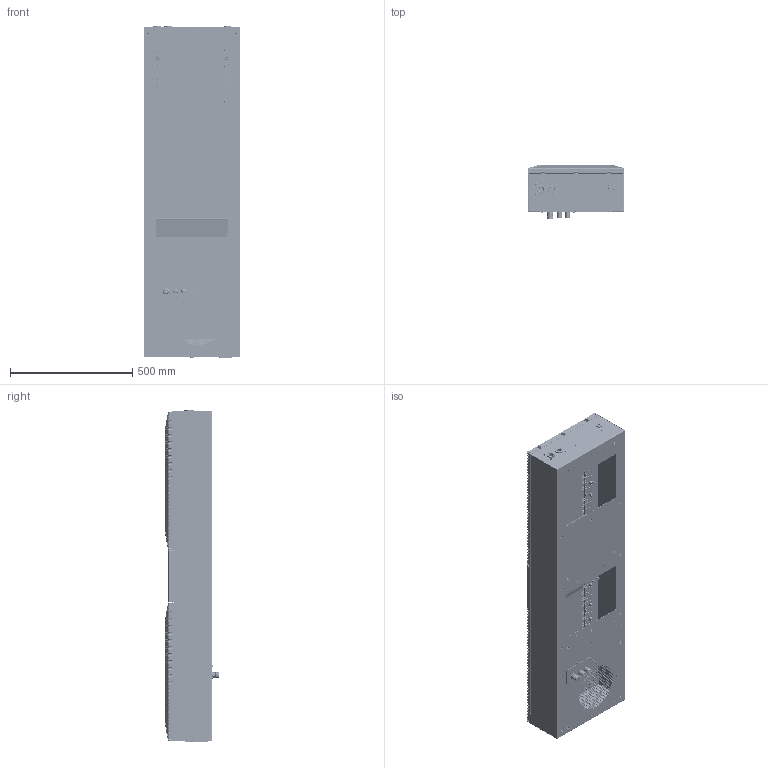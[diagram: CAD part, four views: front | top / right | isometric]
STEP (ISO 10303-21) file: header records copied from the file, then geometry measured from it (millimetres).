
FILE_DESCRIPTION((''),'2;1');
FILE_NAME('RK7525_COMPLETE_ASM_ASM','2022-10-27T12:24:28',('sant'),(''),'CREO PARAMETRIC BY PTC INC, 2018260','CREO PARAMETRIC BY PTC INC, 2018260','');
FILE_SCHEMA(('CONFIG_CONTROL_DESIGN'));
Products named in the file (73): RK7525_HOUSING_1; RK7525_HOUSING_MANUF_ASM_1_ASM; POPNUT_M6_HEX_CL_WITH_LIP_1_5MM; POPNUT_M8_HEX_CLOSED_HEAD1-5_ST; POPNUT_M4_HEX_CLOSED_STEEL_1; TOOTHED_WASHER_DIN6797_M4_1; EARTH_RING_1; WASHER_FLAT_A4_3_STEEL_1; RIVETED_1; RK7525_INS_HOUSING_SIDE_1; RK7525_INS_HOUSING_TOP_1; RK7525_HOUSING_ASSEMBLY_ASM_1_ASM; RK7525_HOUSING_BASE_1; RK7525_HOUSING_BASE_SUPPORT_1; RK7525_HOUSING_BASE_ASM_1_ASM; GROMMET_10_14_1; RK7525_CONNECTION_PLATE_G1-2_1; REDUCER_BR_G3-4_G1-2_RN3412MS_1; RK7525_CONN_PLATE_G1-2_GASKET_1; WASHER_DIN125_PA6-6_D4-3_1; SCREW_M4X12_ISO14583_A2_TORX_1; RK7525_CONNCT_PLATE_G1-2_12_BOT_ASM; RK7525_IN_OUT_BLANKING_PLATE_1; RIVET_4X95_AL_ST_PULLED_1; RK7525_CONNECTION_PLATE_BLANK_A_ASM; RK85XX_ELEC_CONN_BRKT_1; POPNUT_M4_HEX_OPEN_STEEL_1; RK851X_ELEC_CONN_BRKT_MNF_ASM_1_ASM; MC-PB7_62H04C-F_1; MC-RJ7_62H04P_1_1; MC-RJ7_62H04P_1_2; MC-RJ7_62H04P_1_ASM; MC-7_62-4-PUSH-IN-ASSEMBLY_ASM__ASM; MC-PB5_08H05C-F_1; MC-RJ5_08H05P_1; MC-5-5-PUSH-IN-ASSEMBLY_ASM_1_ASM; MC-PB5_08H03C-F_1_1; MC-PB5_08H03C-F_1_2; MC-PB5_08H03C-F_1_ASM; MC-RJ5_08H03P_1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
Assembly tree (227 placements, depth 6):
  RK7525_COMPLETE_ASM_ASM
    RK7525_COMPLETE_ASM_1_ASM
      RK7525_HOUSING_ASSEMBLY_ASM_1_ASM
        RK7525_HOUSING_MANUF_ASM_1_ASM
          RK7525_HOUSING_1
        POPNUT_M6_HEX_CL_WITH_LIP_1_5MM  x27
        POPNUT_M8_HEX_CLOSED_HEAD1-5_ST
        POPNUT_M4_HEX_CLOSED_STEEL_1  x23
        TOOTHED_WASHER_DIN6797_M4_1
        EARTH_RING_1
        WASHER_FLAT_A4_3_STEEL_1
        RIVETED_1
        RK7525_INS_HOUSING_SIDE_1  x2
        RK7525_INS_HOUSING_TOP_1
      RK7525_HOUSING_BASE_ASM_1_ASM
        RK7525_HOUSING_BASE_1
        RIVETED_1  x6
        RK7525_HOUSING_BASE_SUPPORT_1
        POPNUT_M4_HEX_CLOSED_STEEL_1  x2
        POPNUT_M6_HEX_CL_WITH_LIP_1_5MM  x2
      GROMMET_10_14_1
      RK7525_CONNCT_PLATE_G1-2_12_BOT_ASM
        RK7525_CONNECTION_PLATE_G1-2_1
        REDUCER_BR_G3-4_G1-2_RN3412MS_1  x2
        RK7525_CONN_PLATE_G1-2_GASKET_1
        WASHER_DIN125_PA6-6_D4-3_1  x4
        SCREW_M4X12_ISO14583_A2_TORX_1  x4
      RK7525_CONNECTION_PLATE_BLANK_A_ASM
        RK7525_IN_OUT_BLANKING_PLATE_1
        RIVET_4X95_AL_ST_PULLED_1  x4
      RK851X_ELEC_CONN_MODULE_ASM_1_ASM
        RK851X_ELEC_CONN_BRKT_MNF_ASM_1_ASM
          RK85XX_ELEC_CONN_BRKT_1
          POPNUT_M4_HEX_OPEN_STEEL_1  x2
        MC-7_62-4-PUSH-IN-ASSEMBLY_ASM__ASM
          MC-PB7_62H04C-F_1
          MC-RJ7_62H04P_1_ASM
            MC-RJ7_62H04P_1_1
            MC-RJ7_62H04P_1_2
        MC-5-5-PUSH-IN-ASSEMBLY_ASM_1_ASM
          MC-PB5_08H05C-F_1
          MC-RJ5_08H05P_1
        MC-PB5-3P_ASM_1_ASM
          MC-PB5_08H03C-F_1_ASM
            MC-PB5_08H03C-F_1_1
            MC-PB5_08H03C-F_1_2
          MC-RJ5_08H03P_1
        ISO7045-M2_5X10-4_8_1  x6
        RK75XX_MODBUS_BLANKING_PLATE_1
        SCREW_DIN7500_M2-5X16_TX_Z-PL_1  x2
        BL_RIV_3_2X9_5_AL_A2_RIVETED_1  x4
        RK85XX-STRAIN-RELIEF-BRKT_ASM_1_ASM
          RK85XX-STRAIN-RELIEF-BRKT_1
          SCB-M4-12_SS_1  x2
        CABLE_GLAND_M16_1  x2
        CABLE_GLAND_M20_METAL_1
        NUT_M20_CABLE_GLAND_METAL_1
        NUT_M16_CABLE_GLAND_GENERIC_1  x2
        BLANKING_STOPPER_M16_1
        TOOTHED_WASHER_DIN6797_M4_1  x3
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Bounding box: 395 x 223.07 x 1358.75 mm (x, y, z)
Volume: 3691814.6 mm3; surface area: 4845184.5 mm2
Topology: 209 solids, 352 shells, 25837 faces, 71969 edges, 46928 vertices
Faces by surface type: plane 16694, cylinder 6968, cone 947, bspline 740, torus 278, extrusion 139, sphere 71
Entity records: 407013 total; most frequent: CARTESIAN_POINT 108438, ORIENTED_EDGE 63599, DIRECTION 58257, EDGE_CURVE 32006, VECTOR 23073, LINE 22934, VERTEX_POINT 21075, AXIS2_PLACEMENT_3D 17592
